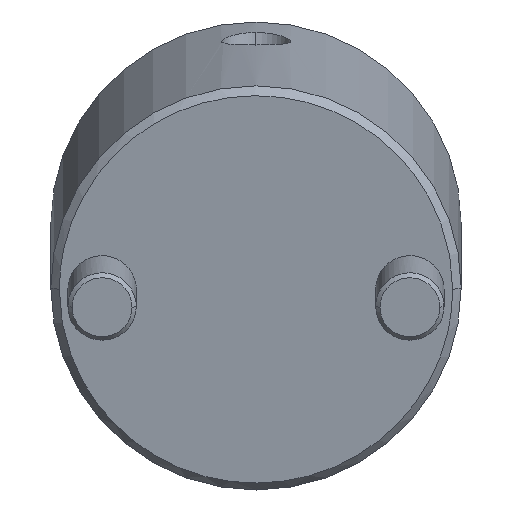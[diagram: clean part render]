
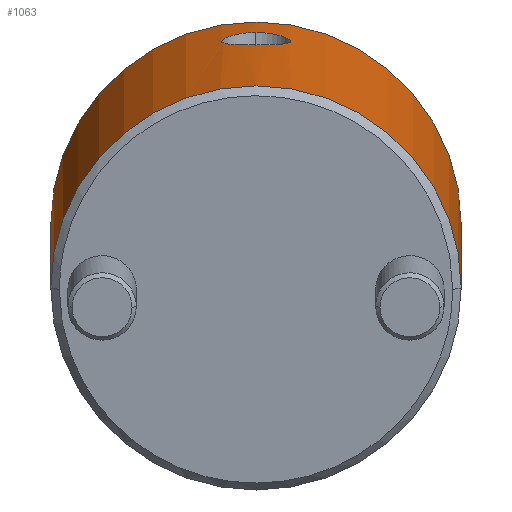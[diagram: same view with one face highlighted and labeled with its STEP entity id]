
A CAD part, front view. The second image highlights one B-rep face of the part: STEP entity #1063.
In plain terms, the highlighted cylindrical face has radius 24 mm (diameter 48 mm), a partial arc.
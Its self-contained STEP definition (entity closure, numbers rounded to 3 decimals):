
#805=CARTESIAN_POINT('Vertex',(0.,24.,1.)) ;
#808=CARTESIAN_POINT('Axis2P3D Location',(0.,0.,1.)) ;
#812=CARTESIAN_POINT('Vertex',(0.,-24.,1.)) ;
#964=CARTESIAN_POINT('Axis2P3D Location',(0.,0.,-2.25)) ;
#969=CARTESIAN_POINT('Line Origine',(0.,24.,-2.25)) ;
#973=CARTESIAN_POINT('Vertex',(0.,24.,44.)) ;
#976=CARTESIAN_POINT('Axis2P3D Location',(0.,0.,44.)) ;
#980=CARTESIAN_POINT('Vertex',(0.,-24.,44.)) ;
#983=CARTESIAN_POINT('Line Origine',(0.,-24.,-2.25)) ;
#995=CARTESIAN_POINT('Control Point',(24.,0.,36.913)) ;
#996=CARTESIAN_POINT('Control Point',(24.,0.582,36.913)) ;
#997=CARTESIAN_POINT('Control Point',(23.982,1.153,36.804)) ;
#998=CARTESIAN_POINT('Control Point',(23.948,1.703,36.586)) ;
#999=CARTESIAN_POINT('Control Point',(23.888,2.367,36.172)) ;
#1000=CARTESIAN_POINT('Control Point',(23.823,2.916,35.611)) ;
#1001=CARTESIAN_POINT('Control Point',(23.806,3.048,35.458)) ;
#1002=CARTESIAN_POINT('Control Point',(23.774,3.292,35.141)) ;
#1003=CARTESIAN_POINT('Control Point',(23.744,3.495,34.796)) ;
#1004=CARTESIAN_POINT('Control Point',(23.731,3.587,34.619)) ;
#1005=CARTESIAN_POINT('Control Point',(23.706,3.747,34.254)) ;
#1006=CARTESIAN_POINT('Control Point',(23.687,3.864,33.874)) ;
#1007=CARTESIAN_POINT('Control Point',(23.679,3.911,33.681)) ;
#1008=CARTESIAN_POINT('Control Point',(23.667,3.981,33.292)) ;
#1009=CARTESIAN_POINT('Control Point',(23.663,4.006,32.895)) ;
#1010=CARTESIAN_POINT('Control Point',(23.663,4.006,32.7)) ;
#1011=CARTESIAN_POINT('Control Point',(23.667,3.983,32.307)) ;
#1012=CARTESIAN_POINT('Control Point',(23.679,3.914,31.922)) ;
#1013=CARTESIAN_POINT('Control Point',(23.686,3.868,31.732)) ;
#1014=CARTESIAN_POINT('Control Point',(23.714,3.695,31.172)) ;
#1015=CARTESIAN_POINT('Control Point',(23.756,3.424,30.653)) ;
#1016=CARTESIAN_POINT('Control Point',(23.788,3.201,30.33)) ;
#1017=CARTESIAN_POINT('Control Point',(23.846,2.744,29.818)) ;
#1018=CARTESIAN_POINT('Control Point',(23.902,2.191,29.416)) ;
#1019=CARTESIAN_POINT('Control Point',(23.924,1.937,29.266)) ;
#1020=CARTESIAN_POINT('Control Point',(23.962,1.414,29.017)) ;
#1021=CARTESIAN_POINT('Control Point',(23.987,0.853,28.865)) ;
#1022=CARTESIAN_POINT('Control Point',(23.996,0.57,28.814)) ;
#1023=CARTESIAN_POINT('Control Point',(24.,0.286,28.79)) ;
#1024=CARTESIAN_POINT('Control Point',(24.,0.,28.79)) ;
#1025=CARTESIAN_POINT('Vertex',(24.,0.,36.913)) ;
#1027=CARTESIAN_POINT('Vertex',(24.,0.,28.79)) ;
#1031=CARTESIAN_POINT('Control Point',(24.,0.,28.79)) ;
#1032=CARTESIAN_POINT('Control Point',(24.,-0.392,28.79)) ;
#1033=CARTESIAN_POINT('Control Point',(23.992,-0.781,28.836)) ;
#1034=CARTESIAN_POINT('Control Point',(23.976,-1.167,28.931)) ;
#1035=CARTESIAN_POINT('Control Point',(23.931,-1.903,29.211)) ;
#1036=CARTESIAN_POINT('Control Point',(23.867,-2.548,29.659)) ;
#1037=CARTESIAN_POINT('Control Point',(23.834,-2.841,29.921)) ;
#1038=CARTESIAN_POINT('Control Point',(23.775,-3.291,30.438)) ;
#1039=CARTESIAN_POINT('Control Point',(23.726,-3.619,31.036)) ;
#1040=CARTESIAN_POINT('Control Point',(23.708,-3.736,31.304)) ;
#1041=CARTESIAN_POINT('Control Point',(23.683,-3.889,31.767)) ;
#1042=CARTESIAN_POINT('Control Point',(23.669,-3.971,32.251)) ;
#1043=CARTESIAN_POINT('Control Point',(23.666,-3.993,32.447)) ;
#1044=CARTESIAN_POINT('Control Point',(23.661,-4.021,33.042)) ;
#1045=CARTESIAN_POINT('Control Point',(23.674,-3.942,33.637)) ;
#1046=CARTESIAN_POINT('Control Point',(23.691,-3.843,34.022)) ;
#1047=CARTESIAN_POINT('Control Point',(23.725,-3.628,34.581)) ;
#1048=CARTESIAN_POINT('Control Point',(23.77,-3.317,35.093)) ;
#1049=CARTESIAN_POINT('Control Point',(23.786,-3.205,35.256)) ;
#1050=CARTESIAN_POINT('Control Point',(23.818,-2.958,35.571)) ;
#1051=CARTESIAN_POINT('Control Point',(23.851,-2.678,35.852)) ;
#1052=CARTESIAN_POINT('Control Point',(23.867,-2.531,35.982)) ;
#1053=CARTESIAN_POINT('Control Point',(23.921,-2.003,36.397)) ;
#1054=CARTESIAN_POINT('Control Point',(23.965,-1.4,36.694)) ;
#1055=CARTESIAN_POINT('Control Point',(23.988,-0.944,36.84)) ;
#1056=CARTESIAN_POINT('Control Point',(24.,-0.476,36.913)) ;
#1057=CARTESIAN_POINT('Control Point',(24.,0.,36.913)) ;
#809=DIRECTION('Axis2P3D Direction',(0.,0.,1.)) ;
#965=DIRECTION('Axis2P3D Direction',(0.,-0.,1.)) ;
#966=DIRECTION('Axis2P3D XDirection',(0.,-1.,0.)) ;
#970=DIRECTION('Vector Direction',(0.,0.,1.)) ;
#977=DIRECTION('Axis2P3D Direction',(0.,-0.,1.)) ;
#984=DIRECTION('Vector Direction',(0.,0.,1.)) ;
#810=AXIS2_PLACEMENT_3D('Circle Axis2P3D',#808,#809,$) ;
#967=AXIS2_PLACEMENT_3D('Cylinder Axis2P3D',#964,#965,#966) ;
#978=AXIS2_PLACEMENT_3D('Circle Axis2P3D',#976,#977,$) ;
#989=ORIENTED_EDGE('',*,*,#975,.F.) ;
#990=ORIENTED_EDGE('',*,*,#982,.T.) ;
#991=ORIENTED_EDGE('',*,*,#987,.T.) ;
#992=ORIENTED_EDGE('',*,*,#814,.F.) ;
#1060=ORIENTED_EDGE('',*,*,#1029,.T.) ;
#1061=ORIENTED_EDGE('',*,*,#1058,.T.) ;
#1062=FACE_BOUND('',#1059,.T.) ;
#971=VECTOR('Line Direction',#970,1.) ;
#985=VECTOR('Line Direction',#984,1.) ;
#1063=ADVANCED_FACE('MANIFOLD_SOLID_BREP #1138',(#993,#1062),#968,.T.) ;
#994=B_SPLINE_CURVE_WITH_KNOTS('',5,(#995,#996,#997,#998,#999,#1000,#1001,#1002,#1003,#1004,#1005,#1006,#1007,#1008,#1009,#1010,#1011,#1012,#1013,#1014,#1015,#1016,#1017,#1018,#1019,#1020,#1021,#1022,#1023,#1024),.UNSPECIFIED.,.F.,.U.,(6,3,3,3,3,3,3,3,3,6),(0.,4.132,5.523,6.921,8.312,9.683,11.058,13.836,15.922,17.949),.UNSPECIFIED.) ;
#1030=B_SPLINE_CURVE_WITH_KNOTS('',5,(#1031,#1032,#1033,#1034,#1035,#1036,#1037,#1038,#1039,#1040,#1041,#1042,#1043,#1044,#1045,#1046,#1047,#1048,#1049,#1050,#1051,#1052,#1053,#1054,#1055,#1056,#1057),.UNSPECIFIED.,.F.,.U.,(6,3,3,3,3,3,3,3,6),(0.,2.782,5.564,7.639,9.01,11.786,13.181,14.576,17.952),.UNSPECIFIED.) ;
#811=CIRCLE('generated circle',#810,24.) ;
#979=CIRCLE('generated circle',#978,24.) ;
#968=CYLINDRICAL_SURFACE('generated cylinder',#967,24.) ;
#814=EDGE_CURVE('',#806,#813,#811,.F.) ;
#975=EDGE_CURVE('',#974,#806,#972,.F.) ;
#982=EDGE_CURVE('',#974,#981,#979,.F.) ;
#987=EDGE_CURVE('',#981,#813,#986,.F.) ;
#1029=EDGE_CURVE('',#1026,#1028,#994,.T.) ;
#1058=EDGE_CURVE('',#1028,#1026,#1030,.T.) ;
#988=EDGE_LOOP('',(#989,#990,#991,#992)) ;
#1059=EDGE_LOOP('',(#1060,#1061)) ;
#993=FACE_OUTER_BOUND('',#988,.T.) ;
#972=LINE('Line',#969,#971) ;
#986=LINE('Line',#983,#985) ;
#806=VERTEX_POINT('',#805) ;
#813=VERTEX_POINT('',#812) ;
#974=VERTEX_POINT('',#973) ;
#981=VERTEX_POINT('',#980) ;
#1026=VERTEX_POINT('',#1025) ;
#1028=VERTEX_POINT('',#1027) ;
